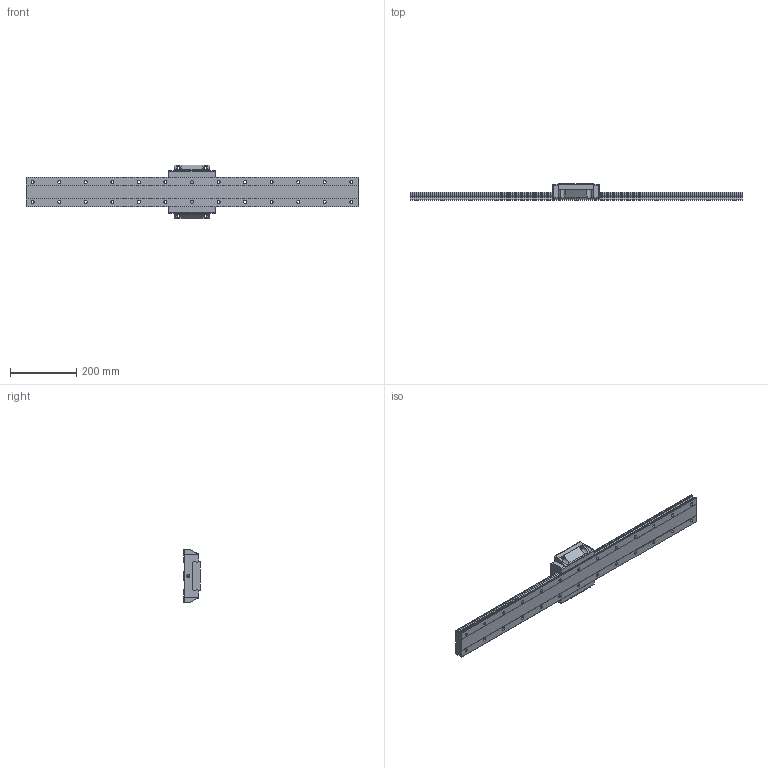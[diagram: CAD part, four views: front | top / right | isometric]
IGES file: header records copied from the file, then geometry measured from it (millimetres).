
Start section: Data from XPlus IGES,  Spatial Corp. Copyright (c) 1999-2004
Global section: file name: SHW50CA1UU1000200429.5000.igs; native system:  By Spatial Corp.; preprocessor: XPlus ACIS/IGES 3.0; author: Noname; organization: Noname; date: 20161110.134427; units: millimetre
Bounding box: 1000 x 50 x 162 mm (x, y, z)
Surface area: 334535.2 mm2 (no closed solid volume)
Topology: 0 solids, 0 shells, 328 faces, 1712 edges, 1708 vertices
Faces by surface type: revolution 194, extrusion 134
